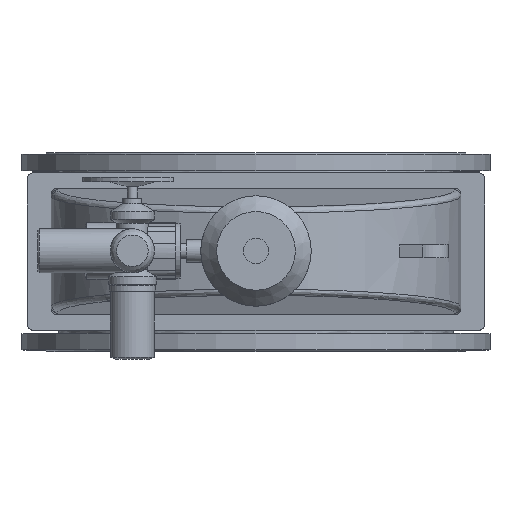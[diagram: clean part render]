
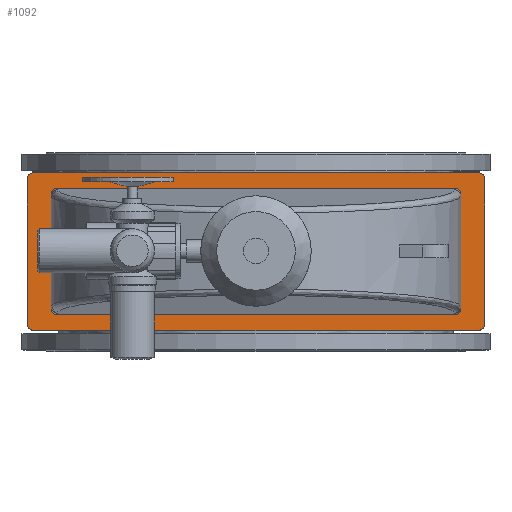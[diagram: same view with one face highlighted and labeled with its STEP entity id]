
A CAD part, top view. The second image highlights one B-rep face of the part: STEP entity #1092.
In plain terms, the highlighted planar face has unit normal (0, 0, 1).
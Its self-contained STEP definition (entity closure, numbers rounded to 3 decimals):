
#1092=ADVANCED_FACE('',(#5500,#5502),#5504,.T.);
#5500=FACE_BOUND('',#5501,.T.);
#5501=EDGE_LOOP('',(#11722,#11723,#11724,#11725,#11726,#11727,#11728,#11729));
#5502=FACE_BOUND('',#5503,.T.);
#5503=EDGE_LOOP('',(#11730,#11731,#11732,#11733,#11734,#11735,#11736,#11737));
#5504=PLANE('',#5505);
#5505=AXIS2_PLACEMENT_3D('',#5506,#5507,#5508);
#5506=CARTESIAN_POINT('',(0.,0.,1316.));
#5507=DIRECTION('',(0.,-0.,1.));
#5508=DIRECTION('',(0.,1.,0.));
#11722=ORIENTED_EDGE('',*,*,#13453,.F.);
#11723=ORIENTED_EDGE('',*,*,#13454,.T.);
#11724=ORIENTED_EDGE('',*,*,#13455,.F.);
#11725=ORIENTED_EDGE('',*,*,#13456,.T.);
#11726=ORIENTED_EDGE('',*,*,#13457,.F.);
#11727=ORIENTED_EDGE('',*,*,#13458,.T.);
#11728=ORIENTED_EDGE('',*,*,#13459,.F.);
#11729=ORIENTED_EDGE('',*,*,#13460,.T.);
#11730=ORIENTED_EDGE('',*,*,#13451,.F.);
#11731=ORIENTED_EDGE('',*,*,#13450,.F.);
#11732=ORIENTED_EDGE('',*,*,#13452,.F.);
#11733=ORIENTED_EDGE('',*,*,#13427,.F.);
#11734=ORIENTED_EDGE('',*,*,#13461,.F.);
#11735=ORIENTED_EDGE('',*,*,#13462,.F.);
#11736=ORIENTED_EDGE('',*,*,#13463,.F.);
#11737=ORIENTED_EDGE('',*,*,#13420,.F.);
#13420=EDGE_CURVE('',#14556,#14558,#14559,.T.);
#13427=EDGE_CURVE('',#14568,#14566,#14570,.T.);
#13450=EDGE_CURVE('',#14605,#14603,#14607,.T.);
#13451=EDGE_CURVE('',#14603,#14556,#14608,.F.);
#13452=EDGE_CURVE('',#14566,#14605,#14609,.T.);
#13453=EDGE_CURVE('',#14610,#14611,#14612,.F.);
#13454=EDGE_CURVE('',#14610,#14613,#14614,.T.);
#13455=EDGE_CURVE('',#14615,#14613,#14616,.F.);
#13456=EDGE_CURVE('',#14615,#14617,#14618,.T.);
#13457=EDGE_CURVE('',#14619,#14617,#14620,.F.);
#13458=EDGE_CURVE('',#14619,#14621,#14622,.T.);
#13459=EDGE_CURVE('',#14623,#14621,#14624,.F.);
#13460=EDGE_CURVE('',#14623,#14611,#14625,.T.);
#13461=EDGE_CURVE('',#14626,#14568,#14627,.F.);
#13462=EDGE_CURVE('',#14628,#14626,#14629,.T.);
#13463=EDGE_CURVE('',#14558,#14628,#14630,.T.);
#14556=VERTEX_POINT('',#17747);
#14558=VERTEX_POINT('',#17751);
#14559=LINE('',#17752,#17753);
#14566=VERTEX_POINT('',#17772);
#14568=VERTEX_POINT('',#17776);
#14570=LINE('',#17780,#17781);
#14603=VERTEX_POINT('',#17863);
#14605=VERTEX_POINT('',#17867);
#14607=LINE('',#17871,#17872);
#14608=(BOUNDED_CURVE()B_SPLINE_CURVE(3,
(#17874,#17875,#17876,#17877),
.UNSPECIFIED.,.F.,.F.)B_SPLINE_CURVE_WITH_KNOTS((4,4),
(0.,1.),
.UNSPECIFIED.)CURVE()GEOMETRIC_REPRESENTATION_ITEM()RATIONAL_B_SPLINE_CURVE((1.,
0.805,0.805,1.))REPRESENTATION_ITEM(''));
#14609=(BOUNDED_CURVE()B_SPLINE_CURVE(3,
(#17878,#17879,#17880,#17881),
.UNSPECIFIED.,.F.,.F.)B_SPLINE_CURVE_WITH_KNOTS((4,4),
(0.,1.),
.UNSPECIFIED.)CURVE()GEOMETRIC_REPRESENTATION_ITEM()RATIONAL_B_SPLINE_CURVE((1.,
0.805,0.805,1.))REPRESENTATION_ITEM(''));
#14610=VERTEX_POINT('',#17882);
#14611=VERTEX_POINT('',#17883);
#14612=CIRCLE('',#17884,20.);
#14613=VERTEX_POINT('',#17888);
#14614=LINE('',#17889,#17890);
#14615=VERTEX_POINT('',#17892);
#14616=CIRCLE('',#17893,20.);
#14617=VERTEX_POINT('',#17897);
#14618=LINE('',#17898,#17899);
#14619=VERTEX_POINT('',#17901);
#14620=CIRCLE('',#17902,20.);
#14621=VERTEX_POINT('',#17906);
#14622=LINE('',#17907,#17908);
#14623=VERTEX_POINT('',#17910);
#14624=CIRCLE('',#17911,20.);
#14625=LINE('',#17915,#17916);
#14626=VERTEX_POINT('',#17918);
#14627=(BOUNDED_CURVE()B_SPLINE_CURVE(3,
(#17919,#17920,#17921,#17922),
.UNSPECIFIED.,.F.,.F.)B_SPLINE_CURVE_WITH_KNOTS((4,4),
(0.,1.),
.UNSPECIFIED.)CURVE()GEOMETRIC_REPRESENTATION_ITEM()RATIONAL_B_SPLINE_CURVE((1.,
0.805,0.805,1.))REPRESENTATION_ITEM(''));
#14628=VERTEX_POINT('',#17923);
#14629=LINE('',#17924,#17925);
#14630=(BOUNDED_CURVE()B_SPLINE_CURVE(3,
(#17927,#17928,#17929,#17930),
.UNSPECIFIED.,.F.,.F.)B_SPLINE_CURVE_WITH_KNOTS((4,4),
(0.,1.),
.UNSPECIFIED.)CURVE()GEOMETRIC_REPRESENTATION_ITEM()RATIONAL_B_SPLINE_CURVE((1.,
0.805,0.805,1.))REPRESENTATION_ITEM(''));
#17747=CARTESIAN_POINT('',(650.,-179.924,1316.));
#17751=CARTESIAN_POINT('',(650.,179.924,1316.));
#17752=CARTESIAN_POINT('',(650.,-179.924,1316.));
#17753=VECTOR('',#17754,1.);
#17754=DIRECTION('',(0.,1.,0.));
#17772=CARTESIAN_POINT('',(-650.,-179.924,1316.));
#17776=CARTESIAN_POINT('',(-650.,179.924,1316.));
#17780=CARTESIAN_POINT('',(-650.,179.924,1316.));
#17781=VECTOR('',#17782,1.);
#17782=DIRECTION('',(0.,-1.,0.));
#17863=CARTESIAN_POINT('',(630.,-200.,1316.));
#17867=CARTESIAN_POINT('',(-630.,-200.,1316.));
#17871=CARTESIAN_POINT('',(-630.,-200.,1316.));
#17872=VECTOR('',#17873,1.);
#17873=DIRECTION('',(1.,0.,0.));
#17874=CARTESIAN_POINT('',(650.,-179.924,1316.));
#17875=CARTESIAN_POINT('',(650.,-191.684,1316.));
#17876=CARTESIAN_POINT('',(641.716,-200.,1316.));
#17877=CARTESIAN_POINT('',(630.,-200.,1316.));
#17878=CARTESIAN_POINT('',(-650.,-179.924,1316.));
#17879=CARTESIAN_POINT('',(-650.,-191.684,1316.));
#17880=CARTESIAN_POINT('',(-641.716,-200.,1316.));
#17881=CARTESIAN_POINT('',(-630.,-200.,1316.));
#17882=CARTESIAN_POINT('',(-705.,-250.,1316.));
#17883=CARTESIAN_POINT('',(-725.,-230.,1316.));
#17884=AXIS2_PLACEMENT_3D('',#17885,#17886,#17887);
#17885=CARTESIAN_POINT('',(-705.,-230.,1316.));
#17886=DIRECTION('',(0.,-0.,1.));
#17887=DIRECTION('',(-1.,0.,0.));
#17888=CARTESIAN_POINT('',(705.,-250.,1316.));
#17889=CARTESIAN_POINT('',(-705.,-250.,1316.));
#17890=VECTOR('',#17891,1.);
#17891=DIRECTION('',(1.,0.,0.));
#17892=CARTESIAN_POINT('',(725.,-230.,1316.));
#17893=AXIS2_PLACEMENT_3D('',#17894,#17895,#17896);
#17894=CARTESIAN_POINT('',(705.,-230.,1316.));
#17895=DIRECTION('',(0.,-0.,1.));
#17896=DIRECTION('',(0.,-1.,0.));
#17897=CARTESIAN_POINT('',(725.,230.,1316.));
#17898=CARTESIAN_POINT('',(725.,-230.,1316.));
#17899=VECTOR('',#17900,1.);
#17900=DIRECTION('',(0.,1.,0.));
#17901=CARTESIAN_POINT('',(705.,250.,1316.));
#17902=AXIS2_PLACEMENT_3D('',#17903,#17904,#17905);
#17903=CARTESIAN_POINT('',(705.,230.,1316.));
#17904=DIRECTION('',(0.,-0.,1.));
#17905=DIRECTION('',(1.,0.,0.));
#17906=CARTESIAN_POINT('',(-705.,250.,1316.));
#17907=CARTESIAN_POINT('',(705.,250.,1316.));
#17908=VECTOR('',#17909,1.);
#17909=DIRECTION('',(-1.,0.,0.));
#17910=CARTESIAN_POINT('',(-725.,230.,1316.));
#17911=AXIS2_PLACEMENT_3D('',#17912,#17913,#17914);
#17912=CARTESIAN_POINT('',(-705.,230.,1316.));
#17913=DIRECTION('',(0.,-0.,1.));
#17914=DIRECTION('',(0.,1.,0.));
#17915=CARTESIAN_POINT('',(-725.,230.,1316.));
#17916=VECTOR('',#17917,1.);
#17917=DIRECTION('',(0.,-1.,0.));
#17918=CARTESIAN_POINT('',(-630.,200.,1316.));
#17919=CARTESIAN_POINT('',(-650.,179.924,1316.));
#17920=CARTESIAN_POINT('',(-650.,191.684,1316.));
#17921=CARTESIAN_POINT('',(-641.716,200.,1316.));
#17922=CARTESIAN_POINT('',(-630.,200.,1316.));
#17923=CARTESIAN_POINT('',(630.,200.,1316.));
#17924=CARTESIAN_POINT('',(630.,200.,1316.));
#17925=VECTOR('',#17926,1.);
#17926=DIRECTION('',(-1.,0.,0.));
#17927=CARTESIAN_POINT('',(650.,179.924,1316.));
#17928=CARTESIAN_POINT('',(650.,191.684,1316.));
#17929=CARTESIAN_POINT('',(641.716,200.,1316.));
#17930=CARTESIAN_POINT('',(630.,200.,1316.));
